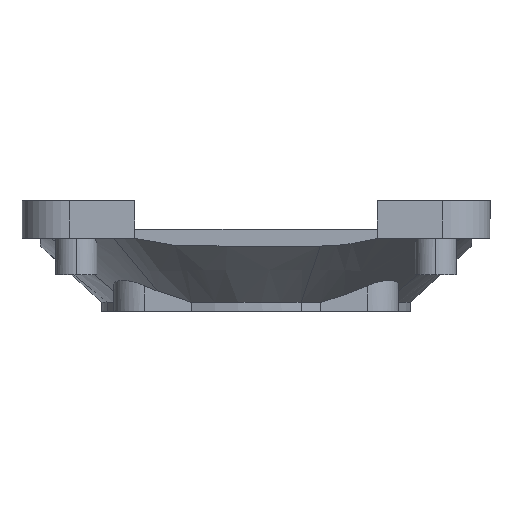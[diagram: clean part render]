
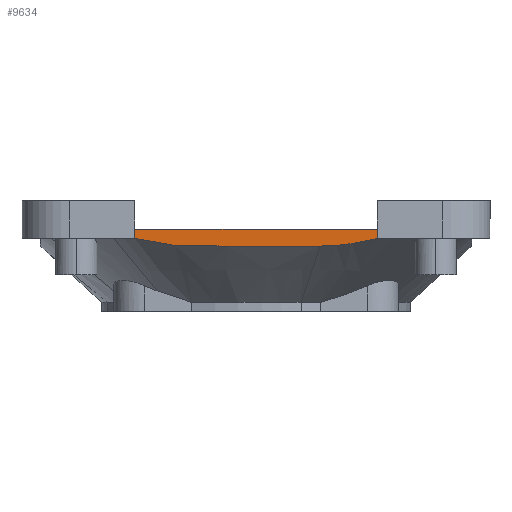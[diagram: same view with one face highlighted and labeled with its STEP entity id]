
A CAD part, front view. The second image highlights one B-rep face of the part: STEP entity #9634.
In plain terms, the highlighted planar face has unit normal (0, -1, 0).
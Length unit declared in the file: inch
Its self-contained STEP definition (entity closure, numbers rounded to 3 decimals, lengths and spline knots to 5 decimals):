
#54 = B_SPLINE_CURVE_WITH_KNOTS ( 'NONE', 3,
 ( #7925, #2596, #2647, #3968 ),
 .UNSPECIFIED., .F., .F.,
 ( 4, 4 ),
 ( 0.75901, 1. ),
 .UNSPECIFIED. ) ;
#245 = CARTESIAN_POINT ( 'NONE',  ( -2.34043, 23.4615, 0.4 ) ) ;
#339 = CARTESIAN_POINT ( 'NONE',  ( -2.29932, 23.4615, 0.38917 ) ) ;
#477 = CARTESIAN_POINT ( 'NONE',  ( -2.34043, 23.4615, 0.45 ) ) ;
#633 = ORIENTED_EDGE ( 'NONE', *, *, #3693, .T. ) ;
#941 = DIRECTION ( 'NONE',  ( 0., 1., 0. ) ) ;
#1026 = CARTESIAN_POINT ( 'NONE',  ( -1.32629, 23.4615, 0.35808 ) ) ;
#1050 = VERTEX_POINT ( 'NONE', #477 ) ;
#1103 = EDGE_CURVE ( 'NONE', #6722, #4751, #7821, .T. ) ;
#1834 = CARTESIAN_POINT ( 'NONE',  ( -2.04833, 23.4615, 0.35826 ) ) ;
#2124 = CARTESIAN_POINT ( 'NONE',  ( -1.32629, 23.4615, 0.35808 ) ) ;
#2441 = EDGE_CURVE ( 'NONE', #1050, #3847, #54, .T. ) ;
#2580 = CARTESIAN_POINT ( 'NONE',  ( -1.66607, 23.4615, 0.3576 ) ) ;
#2596 = CARTESIAN_POINT ( 'NONE',  ( -2.34043, 23.4615, 0.43333 ) ) ;
#2647 = CARTESIAN_POINT ( 'NONE',  ( -2.34043, 23.4615, 0.41667 ) ) ;
#2668 = CARTESIAN_POINT ( 'NONE',  ( -1.27348, 23.4615, 0.35935 ) ) ;
#3036 = EDGE_CURVE ( 'NONE', #6922, #6722, #5519, .T. ) ;
#3241 = CARTESIAN_POINT ( 'NONE',  ( -0.65378, 23.4615, 0.4 ) ) ;
#3243 = CARTESIAN_POINT ( 'NONE',  ( -2.19551, 23.4615, 0.37024 ) ) ;
#3309 = CARTESIAN_POINT ( 'NONE',  ( -1.01394, 23.4615, 0.60748 ) ) ;
#3398 = ORIENTED_EDGE ( 'NONE', *, *, #2441, .T. ) ;
#3461 = CARTESIAN_POINT ( 'NONE',  ( -1.32629, 23.4615, 0.35808 ) ) ;
#3693 = EDGE_CURVE ( 'NONE', #6922, #1050, #5508, .T. ) ;
#3847 = VERTEX_POINT ( 'NONE', #4515 ) ;
#3871 = AXIS2_PLACEMENT_3D ( 'NONE', #3241, #941, #9131 ) ;
#3968 = CARTESIAN_POINT ( 'NONE',  ( -2.34043, 23.4615, 0.4 ) ) ;
#4044 = CARTESIAN_POINT ( 'NONE',  ( -2.00585, 23.4615, 0.35811 ) ) ;
#4331 = CARTESIAN_POINT ( 'NONE',  ( -1.06515, 23.4615, 0.38655 ) ) ;
#4515 = CARTESIAN_POINT ( 'NONE',  ( -2.34043, 23.4615, 0.4 ) ) ;
#4565 = CARTESIAN_POINT ( 'NONE',  ( -0.65378, 23.4615, 0.45 ) ) ;
#4751 = VERTEX_POINT ( 'NONE', #1026 ) ;
#5508 = LINE ( 'NONE', #4565, #7452 ) ;
#5519 = LINE ( 'NONE', #3309, #5844 ) ;
#5598 = CARTESIAN_POINT ( 'NONE',  ( -1.98462, 23.4615, 0.35805 ) ) ;
#5835 = CARTESIAN_POINT ( 'NONE',  ( -1.31307, 23.4615, 0.3583 ) ) ;
#5844 = VECTOR ( 'NONE', #7830, 39.37008 ) ;
#6097 = ORIENTED_EDGE ( 'NONE', *, *, #6512, .F. ) ;
#6399 = CARTESIAN_POINT ( 'NONE',  ( -2.13272, 23.4615, 0.36281 ) ) ;
#6496 = CARTESIAN_POINT ( 'NONE',  ( -1.01394, 23.4615, 0.4 ) ) ;
#6512 = EDGE_CURVE ( 'NONE', #4751, #3847, #8380, .T. ) ;
#6547 = CARTESIAN_POINT ( 'NONE',  ( -1.29985, 23.4615, 0.35851 ) ) ;
#6596 = CARTESIAN_POINT ( 'NONE',  ( -1.19483, 23.4615, 0.36558 ) ) ;
#6608 = ORIENTED_EDGE ( 'NONE', *, *, #1103, .F. ) ;
#6722 = VERTEX_POINT ( 'NONE', #8210 ) ;
#6922 = VERTEX_POINT ( 'NONE', #9875 ) ;
#7111 = CARTESIAN_POINT ( 'NONE',  ( -2.25795, 23.4615, 0.38036 ) ) ;
#7207 = CARTESIAN_POINT ( 'NONE',  ( -1.87844, 23.4615, 0.35784 ) ) ;
#7452 = VECTOR ( 'NONE', #7721, 39.37008 ) ;
#7571 = EDGE_LOOP ( 'NONE', ( #6608, #9374, #633, #3398, #6097 ) ) ;
#7721 = DIRECTION ( 'NONE',  ( -1., 0., 0. ) ) ;
#7812 = FACE_OUTER_BOUND ( 'NONE', #7571, .T. ) ;
#7821 = B_SPLINE_CURVE_WITH_KNOTS ( 'NONE', 3,
 ( #6496, #4331, #8852, #6596, #8099, #9547, #2668, #6547, #5835, #2124 ),
 .UNSPECIFIED., .F., .F.,
 ( 4, 2, 2, 2, 4 ),
 ( 0., 0.004, 0.006, 0.007, 0.008 ),
 .UNSPECIFIED. ) ;
#7830 = DIRECTION ( 'NONE',  ( 0., 0., -1. ) ) ;
#7908 = CARTESIAN_POINT ( 'NONE',  ( -2.06952, 23.4615, 0.35866 ) ) ;
#7925 = CARTESIAN_POINT ( 'NONE',  ( -2.34043, 23.4615, 0.45 ) ) ;
#8024 = CARTESIAN_POINT ( 'NONE',  ( -1.49618, 23.4615, 0.3578 ) ) ;
#8099 = CARTESIAN_POINT ( 'NONE',  ( -1.22095, 23.4615, 0.36281 ) ) ;
#8210 = CARTESIAN_POINT ( 'NONE',  ( -1.01394, 23.4615, 0.4 ) ) ;
#8327 = PLANE ( 'NONE',  #3871 ) ;
#8380 = B_SPLINE_CURVE_WITH_KNOTS ( 'NONE', 3,
 ( #3461, #8024, #2580, #7207, #8812, #5598, #4044, #1834, #7908, #9506, #6399, #9457, #3243, #7111, #339, #245 ),
 .UNSPECIFIED., .F., .F.,
 ( 4, 2, 2, 2, 2, 2, 2, 4 ),
 ( 0.00017, 0.01311, 0.01635, 0.01797, 0.01959, 0.02121, 0.02282, 0.02606 ),
 .UNSPECIFIED. ) ;
#8812 = CARTESIAN_POINT ( 'NONE',  ( -1.92091, 23.4615, 0.3579 ) ) ;
#8852 = CARTESIAN_POINT ( 'NONE',  ( -1.11676, 23.4615, 0.37623 ) ) ;
#9131 = DIRECTION ( 'NONE',  ( 0., 0., 1. ) ) ;
#9374 = ORIENTED_EDGE ( 'NONE', *, *, #3036, .F. ) ;
#9457 = CARTESIAN_POINT ( 'NONE',  ( -2.17463, 23.4615, 0.36741 ) ) ;
#9506 = CARTESIAN_POINT ( 'NONE',  ( -2.11171, 23.4615, 0.361 ) ) ;
#9547 = CARTESIAN_POINT ( 'NONE',  ( -1.26032, 23.4615, 0.36003 ) ) ;
#9634 = ADVANCED_FACE ( 'NONE', ( #7812 ), #8327, .F. ) ;
#9875 = CARTESIAN_POINT ( 'NONE',  ( -1.01394, 23.4615, 0.45 ) ) ;
